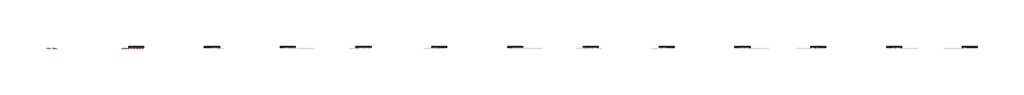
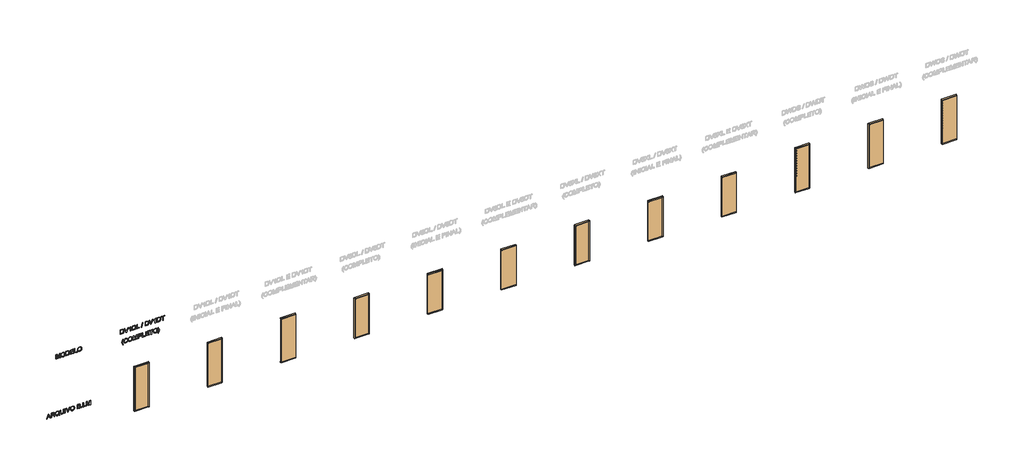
# One storey, part 1 of 7: 12 doors, 3 proxies.
"""IFC4 building model written with IfcOpenShell, lengths in millimetres."""

from ifc_helpers import new_model, si_unit, frame, origin, place, context, project, spatial, polyline, outline, extrude, transform, mapped, element, save
from components import door_b99cb2b5, door_d8bc91a7, door_c7f4f2b3, door_c625b460, door_7680dacf, door_03dbf4ee, dv8dl_8mm_8mm_laminado_d276babe, dv8dl_8mm_8mm_laminado_b832ceb3, dv8dl_8mm_8mm_laminado_8a779c50, dv8xl_8mm_10mm_laminado_efa7bd3a, dv8xl_8mm_10mm_laminado_96504748, dv8xl_8mm_10mm_laminado_3fc03e85

model = new_model("IFC4")

# Units and contexts
model_context = context("Model", 3, world=origin())
ifc_project = project(units=[si_unit("LENGTHUNIT", "METRE", prefix="MILLI")], contexts=[model_context])

# Site, building, storey
site = spatial("IfcSite", under=ifc_project)
building = spatial("IfcBuilding", under=site)
storey = spatial("IfcBuildingStorey", under=building, Name="02 - Marelli - Planta Baixa - Painel Duplo", Elevation=-12000.0)

# Proxies
placement = place(None, origin())
element("IfcBuildingElementProxy", 1, Name="300mm Arial", ObjectType="300mm Arial", at=placement, inside=storey, context=model_context, shape_type="SweptSolid", body=[
    extrude(outline(polyline([(-10400.0, -7636.3146377), (-10400.0, -7596.5098058), (-10305.8222092, -7562.076051), (-10305.8222092, -7437.9526659), (-10400.0, -7403.4453347), (-10400.0, -7363.6405028), (-10098.6310696, -7483.9379153), (-10098.6310696, -7516.0172252), (-10400.0, -7636.3146377)]), holes=[polyline([(-10268.1510929, -7548.243688), (-10187.584936, -7518.739552), (-10136.3021859, -7499.9775703), (-10194.0596591, -7478.8611437), (-10268.1510929, -7451.7114525), (-10268.1510929, -7548.243688)])]), frame((0.0, 8778.3159498, 0.0), z_axis=(0.0, 1.0, 0.0), x_axis=(0.0, 0.0, 1.0)), (0.0, 0.0, 1.0), 10.0),
    extrude(outline(polyline([(-10400.0, -7323.3942126), (-10400.0, -7285.7230963), (-10268.1510929, -7285.7230963), (-10268.1510929, -7240.2528817), (-10269.4754681, -7218.4006911), (-10276.649167, -7200.484838), (-10296.183701, -7180.582422), (-10337.5336372, -7152.2555084), (-10400.0, -7113.0392877), (-10400.0, -7069.2613303), (-10318.3301971, -7119.5140108), (-10279.5554348, -7150.0482164), (-10263.4422034, -7171.4589486), (-10253.4542072, -7134.3488523), (-10245.4389783, -7119.9669655), (-10235.4095954, -7108.3671864), (-10210.7982899, -7093.0540983), (-10181.1102129, -7087.9497357), (-10157.2438684, -7091.0307474), (-10135.5296337, -7100.2737825), (-10118.0184507, -7114.6763626), (-10106.7612616, -7133.2360093), (-10100.6636176, -7158.629064), (-10098.6310696, -7193.5318683), (-10098.6310696, -7323.3942126), (-10400.0, -7323.3942126)]), holes=[polyline([(-10230.4799766, -7285.7230963), (-10136.3021859, -7285.7230963), (-10136.3021859, -7191.9131875), (-10139.5579415, -7162.1055488), (-10149.3252085, -7141.5501423), (-10164.1324588, -7129.6031746), (-10182.5081645, -7125.620852), (-10195.8162956, -7127.7085823), (-10208.0759631, -7133.9717732), (-10218.2111121, -7144.254075), (-10225.1456877, -7158.3991377), (-10229.1464044, -7177.1887106), (-10230.4799766, -7201.404543), (-10230.4799766, -7285.7230963)])]), frame((0.0, 8778.3159498, 0.0), z_axis=(0.0, 1.0, 0.0), x_axis=(0.0, 0.0, 1.0)), (0.0, 0.0, 1.0), 10.0),
    extrude(outline(polyline([(-10363.8739881, -6795.6307023), (-10340.3479345, -6777.1814202), (-10313.0326963, -6764.0664271), (-10281.9650618, -6756.2305406), (-10247.1818192, -6753.6185784), (-10205.3536364, -6757.9227978), (-10168.0136138, -6770.8354558), (-10136.8172207, -6791.9610794), (-10113.4199258, -6820.9041954), (-10098.7966164, -6855.7702114), (-10093.92218, -6894.6645354), (-10098.6862519, -6933.2553567), (-10112.9784674, -6967.9466288), (-10136.3849593, -6996.93573), (-10168.4918604, -7018.4200386), (-10206.944726, -7031.7189727), (-10249.3891112, -7036.1519507), (-10291.7967082, -7031.7097756), (-10329.6977507, -7018.3832504), (-10361.3539964, -6996.8161684), (-10385.0272028, -6967.6523232), (-10399.7884679, -6932.8322924), (-10404.7088895, -6894.2966534), (-10400.4414584, -6855.9449554), (-10387.639165, -6821.0881364), (-10408.47968, -6790.1308665), (-10422.8822601, -6759.063232), (-10395.2911105, -6748.9096889), (-10382.4704229, -6771.2953083), (-10363.8739881, -6795.6307023)]), holes=[polyline([(-10313.7684603, -6883.9223811), (-10342.6104088, -6893.6344658), (-10349.287467, -6873.2721974), (-10359.3122513, -6853.9767867), (-10365.1063928, -6873.6032912), (-10367.0377732, -6894.5173826), (-10365.1362832, -6916.2385151), (-10359.431813, -6935.9316982), (-10349.9243627, -6953.5969318), (-10336.6139322, -6969.2342158), (-10319.748842, -6982.0296115), (-10299.5774124, -6991.1691798), (-10276.0996433, -6996.6529208), (-10249.3155348, -6998.4808344), (-10221.8140564, -6996.6322274), (-10197.9500112, -6991.0864063), (-10177.7233993, -6981.8433712), (-10161.1342205, -6968.903122), (-10148.2100662, -6953.1577726), (-10138.9785274, -6935.4994369), (-10133.4396041, -6915.9281147), (-10131.5932963, -6894.4438062), (-10135.2445251, -6865.9605427), (-10146.1982115, -6840.4019411), (-10163.7645768, -6819.2027411), (-10187.2538422, -6803.7976826), (-10215.9394408, -6794.4166917), (-10249.0948056, -6791.2896947), (-10278.2678478, -6793.5015852), (-10303.5413409, -6800.1372567), (-10324.9152848, -6811.1967092), (-10342.3896796, -6826.6799427), (-10325.7430193, -6852.2477413), (-10313.7684603, -6883.9223811)])]), frame((0.0, 8778.3159498, 0.0), z_axis=(0.0, 1.0, 0.0), x_axis=(0.0, 0.0, 1.0)), (0.0, 0.0, 1.0), 10.0),
    extrude(outline(polyline([(-10098.6310696, -6499.3385434), (-10271.1677253, -6499.3385434), (-10318.3301971, -6504.1026152), (-10335.0688279, -6510.057705), (-10347.2457219, -6518.3948307), (-10355.9047444, -6529.5278596), (-10362.0897604, -6543.8706589), (-10367.0377732, -6582.1855687), (-10364.5361757, -6606.3554158), (-10357.031383, -6626.4785609), (-10344.9188683, -6641.9112106), (-10328.5941047, -6652.0095714), (-10305.0220659, -6657.5829836), (-10271.1677253, -6659.4407877), (-10098.6310696, -6659.4407877), (-10098.6310696, -6697.111904), (-10272.4921005, -6697.111904), (-10315.2675795, -6694.2516215), (-10347.9446977, -6685.6707739), (-10372.3076828, -6670.4036711), (-10390.1407625, -6647.4846228), (-10401.0668578, -6616.904432), (-10404.7088895, -6578.6539015), (-10400.5242318, -6539.5480454), (-10387.9702588, -6508.7563224), (-10368.7484245, -6486.2235502), (-10344.5601833, -6471.8945465), (-10313.2074403, -6464.2242069), (-10272.4921005, -6461.6674271), (-10098.6310696, -6461.6674271), (-10098.6310696, -6499.3385434)])), frame((0.0, 8778.3159498, 0.0), z_axis=(0.0, 1.0, 0.0), x_axis=(0.0, 0.0, 1.0)), (0.0, 0.0, 1.0), 10.0),
    extrude(outline(polyline([(-6353.3629677, 8778.3159498), (-6391.034084, 8778.3159498), (-6391.034084, 8788.3159498), (-6353.3629677, 8788.3159498), (-6353.3629677, 8778.3159498)])), frame((0.0, 0.0, -10400.0), z_axis=(0.0, 0.0, 1.0), x_axis=(1.0, 0.0, 0.0)), (0.0, 0.0, 1.0), 301.3689304),
    extrude(outline(polyline([(-10400.0, -6188.9932922), (-10400.0, -6150.0713771), (-10098.6310696, -6035.2186183), (-10098.6310696, -6075.5384849), (-10315.7550231, -6156.0310655), (-10364.6833285, -6172.0707205), (-10315.7550231, -6188.3311046), (-10098.6310696, -6268.602956), (-10098.6310696, -6308.9228227), (-10400.0, -6188.9932922)])), frame((0.0, 8778.3159498, 0.0), z_axis=(0.0, 1.0, 0.0), x_axis=(0.0, 0.0, 1.0)), (0.0, 0.0, 1.0), 10.0),
    extrude(outline(polyline([(-10253.2886603, -6014.3229209), (-10291.8334964, -6010.0187016), (-10328.2997991, -5997.1060436), (-10359.992833, -5975.8424642), (-10384.2178624, -5946.485481), (-10399.5861328, -5910.8377157), (-10404.7088895, -5870.70179), (-10400.0735764, -5832.892718), (-10386.167637, -5797.7507904), (-10363.2485887, -5767.7868019), (-10331.5739489, -5745.5115471), (-10293.1118863, -5731.6883811), (-10249.8305696, -5727.0806591), (-10207.1194699, -5731.4584548), (-10169.1908362, -5744.5918421), (-10137.5713787, -5766.0761506), (-10113.7878078, -5795.5067102), (-10098.8885869, -5830.9521404), (-10093.92218, -5870.4810608), (-10096.5663319, -5900.7715446), (-10104.4987874, -5928.1465636), (-10117.7195466, -5952.6061177), (-10136.2286095, -5974.1502071), (-10159.4097737, -5991.7257694), (-10186.6468369, -6004.2797425), (-10217.9397991, -6011.8121263), (-10253.2886603, -6014.3229209)]), holes=[polyline([(-10253.6565423, -5976.6518046), (-10223.1200375, -5974.6882345), (-10197.2878236, -5968.797524), (-10176.1599008, -5958.9796733), (-10159.736269, -5945.2346822), (-10147.4237184, -5928.7673644), (-10138.6290395, -5910.7825334), (-10133.3522321, -5891.2801891), (-10131.5932963, -5870.2603316), (-10135.2445251, -5841.0964864), (-10146.1982115, -5814.9676677), (-10163.7921679, -5793.3086153), (-10187.3642068, -5777.5540688), (-10216.1877611, -5767.9523488), (-10249.536264, -5764.7517754), (-10276.0743514, -5766.6210758), (-10299.4026684, -5772.228977), (-10319.521215, -5781.5754789), (-10336.4299912, -5794.6605816), (-10349.8208959, -5810.642755), (-10359.3858277, -5828.6804691), (-10365.1247869, -5848.7737238), (-10367.0377732, -5870.9225192), (-10365.143181, -5892.6988341), (-10359.4594041, -5912.557564), (-10349.9864428, -5930.4987091), (-10336.7242968, -5946.5222692), (-10320.1650085, -5959.703941), (-10300.80062, -5969.1194208), (-10278.6311313, -5974.7687087), (-10253.6565423, -5976.6518046)])]), frame((0.0, 8778.3159498, 0.0), z_axis=(0.0, 1.0, 0.0), x_axis=(0.0, 0.0, 1.0)), (0.0, 0.0, 1.0), 10.0),
    extrude(outline(polyline([(-10400.0, -5557.5606357), (-10400.0, -5443.4436408), (-10394.8128639, -5395.1407348), (-10388.3933231, -5377.10532), (-10379.5089729, -5362.3624491), (-10367.2401083, -5350.3235108), (-10350.6670244, -5340.399894), (-10331.1784758, -5333.7504269), (-10310.1632168, -5331.5339379), (-10284.944906, -5334.7804965), (-10263.2950506, -5344.5201723), (-10246.3356906, -5360.2931129), (-10235.1888662, -5381.6394656), (-10223.4442335, -5363.7695977), (-10208.5174215, -5351.0684718), (-10191.456894, -5343.4809057), (-10173.3111146, -5340.951717), (-10153.5926396, -5343.9591523), (-10134.7570815, -5352.9814582), (-10118.7450176, -5367.3104619), (-10107.4970256, -5386.2379906), (-10100.8475586, -5410.9320695), (-10098.6310696, -5442.560724), (-10098.6310696, -5557.5606357), (-10400.0, -5557.5606357)]), holes=[polyline([(-10221.0621975, -5519.8895194), (-10136.3021859, -5519.8895194), (-10136.3021859, -5456.3195106), (-10140.2385232, -5407.9062401), (-10145.8395266, -5395.4166463), (-10154.769862, -5386.2012024), (-10166.2109921, -5380.5174255), (-10179.3443793, -5378.6228333), (-10192.8732397, -5380.6553813), (-10203.8821084, -5386.7530254), (-10212.2422267, -5396.8605832), (-10217.824836, -5410.9228724), (-10221.0621975, -5451.0955863), (-10221.0621975, -5519.8895194)]), polyline([(-10362.3288837, -5519.8895194), (-10258.7333139, -5519.8895194), (-10258.7333139, -5446.3131204), (-10259.9933097, -5419.4853259), (-10263.7732972, -5399.776048), (-10270.6618875, -5385.8609115), (-10281.247692, -5376.4155413), (-10294.7857494, -5371.007676), (-10310.5310988, -5369.2050542), (-10324.0875503, -5370.7409615), (-10335.9149564, -5375.3486835), (-10352.6535872, -5391.0204565), (-10360.8573557, -5414.6752688), (-10362.3288837, -5442.6343004), (-10362.3288837, -5519.8895194)])]), frame((0.0, 8778.3159498, 0.0), z_axis=(0.0, 1.0, 0.0), x_axis=(0.0, 0.0, 1.0)), (0.0, 0.0, 1.0), 10.0),
    extrude(outline(polyline([(-5237.3561471, 8778.3159498), (-5275.0272634, 8778.3159498), (-5275.0272634, 8788.3159498), (-5237.3561471, 8788.3159498), (-5237.3561471, 8778.3159498)])), frame((0.0, 0.0, -10400.0), z_axis=(0.0, 0.0, 1.0), x_axis=(1.0, 0.0, 0.0)), (0.0, 0.0, 1.0), 37.6711163),
    extrude(outline(polyline([(-5119.6339087, 8778.3159498), (-5157.305025, 8778.3159498), (-5157.305025, 8788.3159498), (-5119.6339087, 8788.3159498), (-5119.6339087, 8778.3159498)])), frame((0.0, 0.0, -10400.0), z_axis=(0.0, 0.0, 1.0), x_axis=(1.0, 0.0, 0.0)), (0.0, 0.0, 1.0), 301.3689304),
    extrude(outline(polyline([(-5001.9116702, 8778.3159498), (-5039.5827865, 8778.3159498), (-5039.5827865, 8788.3159498), (-5001.9116702, 8788.3159498), (-5001.9116702, 8778.3159498)])), frame((0.0, 0.0, -10400.0), z_axis=(0.0, 0.0, 1.0), x_axis=(1.0, 0.0, 0.0)), (0.0, 0.0, 1.0), 37.6711163),
    extrude(outline(polyline([(-10400.0, -4926.5694376), (-10400.0, -4888.8983213), (-10136.3021859, -4888.8983213), (-10400.0, -4813.1882067), (-10400.0, -4762.1261857), (-10136.3021859, -4686.4160711), (-10400.0, -4686.4160711), (-10400.0, -4648.7449548), (-10098.6310696, -4648.7449548), (-10098.6310696, -4713.5657624), (-10307.3673136, -4774.1927152), (-10355.4127022, -4787.6571962), (-10311.0461336, -4800.0916076), (-10098.6310696, -4861.74863), (-10098.6310696, -4926.5694376), (-10400.0, -4926.5694376)])), frame((0.0, 8778.3159498, 0.0), z_axis=(0.0, 1.0, 0.0), x_axis=(0.0, 0.0, 1.0)), (0.0, 0.0, 1.0), 10.0),
])
element("IfcBuildingElementProxy", 2, Name="300mm Arial", ObjectType="300mm Arial", at=placement, inside=storey, context=model_context, shape_type="SweptSolid", body=[
    extrude(outline(polyline([(-6300.0, -6993.7719449), (-6300.0, -6956.1008286), (-6036.3021859, -6956.1008286), (-6300.0, -6880.390714), (-6300.0, -6829.328693), (-6036.3021859, -6753.6185784), (-6300.0, -6753.6185784), (-6300.0, -6715.9474621), (-5998.6310696, -6715.9474621), (-5998.6310696, -6780.7682697), (-6207.3673136, -6841.3952225), (-6255.4127022, -6854.8597035), (-6211.0461336, -6867.2941149), (-5998.6310696, -6928.9511373), (-5998.6310696, -6993.7719449), (-6300.0, -6993.7719449)])), frame((0.0, 8778.3159498, 0.0), z_axis=(0.0, 1.0, 0.0), x_axis=(0.0, 0.0, 1.0)), (0.0, 0.0, 1.0), 10.0),
    extrude(outline(polyline([(-6153.2886603, -6664.1496772), (-6191.8334964, -6659.8454579), (-6228.2997991, -6646.9327998), (-6259.992833, -6625.6692205), (-6284.2178624, -6596.3122373), (-6299.5861328, -6560.664472), (-6304.7088895, -6520.5285463), (-6300.0735764, -6482.7194742), (-6286.167637, -6447.5775466), (-6263.2485887, -6417.6135581), (-6231.5739489, -6395.3383033), (-6193.1118863, -6381.5151374), (-6149.8305696, -6376.9074154), (-6107.1194699, -6381.2852111), (-6069.1908362, -6394.4185983), (-6037.5713787, -6415.9029069), (-6013.7878078, -6445.3334665), (-5998.8885869, -6480.7788967), (-5993.92218, -6520.3078171), (-5996.5663319, -6550.5983009), (-6004.4987874, -6577.9733198), (-6017.7195466, -6602.432874), (-6036.2286095, -6623.9769633), (-6059.4097737, -6641.5525257), (-6086.6468369, -6654.1064987), (-6117.9397991, -6661.6388826), (-6153.2886603, -6664.1496772)]), holes=[polyline([(-6153.6565423, -6626.4785609), (-6123.1200375, -6624.5149908), (-6097.2878236, -6618.6242803), (-6076.1599008, -6608.8064296), (-6059.736269, -6595.0614385), (-6047.4237184, -6578.5941207), (-6038.6290395, -6560.6092897), (-6033.3522321, -6541.1069454), (-6031.5932963, -6520.0870879), (-6035.2445251, -6490.9232427), (-6046.1982115, -6464.794424), (-6063.7921679, -6443.1353716), (-6087.3642068, -6427.3808251), (-6116.1877611, -6417.779105), (-6149.536264, -6414.5785317), (-6176.0743514, -6416.4478321), (-6199.4026684, -6422.0557332), (-6219.521215, -6431.4022352), (-6236.4299912, -6444.4873379), (-6249.8208959, -6460.4695113), (-6259.3858277, -6478.5072254), (-6265.1247869, -6498.6004801), (-6267.0377732, -6520.7492755), (-6265.143181, -6542.5255903), (-6259.4594041, -6562.3843203), (-6249.9864428, -6580.3254653), (-6236.7242968, -6596.3490255), (-6220.1650085, -6609.5306972), (-6200.80062, -6618.9461771), (-6178.6311313, -6624.5954649), (-6153.6565423, -6626.4785609)])]), frame((0.0, 8778.3159498, 0.0), z_axis=(0.0, 1.0, 0.0), x_axis=(0.0, 0.0, 1.0)), (0.0, 0.0, 1.0), 10.0),
    extrude(outline(polyline([(-6300.0, -6325.1096305), (-6300.0, -6216.1429835), (-6294.8496521, -6167.6929247), (-6288.4944906, -6148.1491937), (-6279.7297021, -6131.6772774), (-6267.911493, -6117.3298796), (-6252.3960698, -6104.1597042), (-6232.7419742, -6092.7185741), (-6208.5077478, -6083.5583124), (-6180.0428784, -6077.5434418), (-6147.696854, -6075.5384849), (-6109.6210675, -6078.499935), (-6076.0334413, -6087.3842852), (-6047.4857985, -6102.2283237), (-6024.529962, -6123.0688387), (-6011.3413925, -6143.3391366), (-6002.9720771, -6167.3618309), (-5998.6310696, -6221.1461786), (-5998.6310696, -6325.1096305), (-6300.0, -6325.1096305)]), holes=[polyline([(-6262.3288837, -6287.4385141), (-6036.3021859, -6287.4385141), (-6036.3021859, -6221.8083662), (-6037.810502, -6190.06015), (-6042.3354506, -6168.3919005), (-6054.9170148, -6147.10073), (-6075.7391357, -6129.2860444), (-6106.0526121, -6117.228712), (-6147.1082428, -6113.2096012), (-6178.0931038, -6115.2605434), (-6204.0931639, -6121.4133697), (-6225.2003933, -6131.245016), (-6241.5067628, -6144.332418), (-6250.3175366, -6156.5093121), (-6256.8842302, -6172.2914497), (-6260.9677203, -6193.2055411), (-6262.3288837, -6220.7782966), (-6262.3288837, -6287.4385141)])]), frame((0.0, 8778.3159498, 0.0), z_axis=(0.0, 1.0, 0.0), x_axis=(0.0, 0.0, 1.0)), (0.0, 0.0, 1.0), 10.0),
    extrude(outline(polyline([(-6300.0, -6023.7407), (-6300.0, -5802.4228917), (-6262.3288837, -5802.4228917), (-6262.3288837, -5986.0695837), (-6163.4422034, -5986.0695837), (-6163.4422034, -5816.5495603), (-6125.7710871, -5816.5495603), (-6125.7710871, -5986.0695837), (-6036.3021859, -5986.0695837), (-6036.3021859, -5807.1317812), (-5998.6310696, -5807.1317812), (-5998.6310696, -6023.7407), (-6300.0, -6023.7407)])), frame((0.0, 8778.3159498, 0.0), z_axis=(0.0, 1.0, 0.0), x_axis=(0.0, 0.0, 1.0)), (0.0, 0.0, 1.0), 10.0),
    extrude(outline(polyline([(-6300.0, -5745.9162172), (-6300.0, -5557.5606357), (-6262.3288837, -5557.5606357), (-6262.3288837, -5708.2451009), (-5998.6310696, -5708.2451009), (-5998.6310696, -5745.9162172), (-6300.0, -5745.9162172)])), frame((0.0, 8778.3159498, 0.0), z_axis=(0.0, 1.0, 0.0), x_axis=(0.0, 0.0, 1.0)), (0.0, 0.0, 1.0), 10.0),
    extrude(outline(polyline([(-6153.2886603, -5529.3072985), (-6191.8334964, -5525.0030791), (-6228.2997991, -5512.0904211), (-6259.992833, -5490.8268418), (-6284.2178624, -5461.4698586), (-6299.5861328, -5425.8220932), (-6304.7088895, -5385.6861676), (-6300.0735764, -5347.8770955), (-6286.167637, -5312.7351679), (-6263.2485887, -5282.7711794), (-6231.5739489, -5260.4959246), (-6193.1118863, -5246.6727586), (-6149.8305696, -5242.0650367), (-6107.1194699, -5246.4428324), (-6069.1908362, -5259.5762196), (-6037.5713787, -5281.0605281), (-6013.7878078, -5310.4910878), (-5998.8885869, -5345.936518), (-5993.92218, -5385.4654384), (-5996.5663319, -5415.7559222), (-6004.4987874, -5443.1309411), (-6017.7195466, -5467.5904953), (-6036.2286095, -5489.1345846), (-6059.4097737, -5506.7101469), (-6086.6468369, -5519.26412), (-6117.9397991, -5526.7965039), (-6153.2886603, -5529.3072985)]), holes=[polyline([(-6153.6565423, -5491.6361822), (-6123.1200375, -5489.672612), (-6097.2878236, -5483.7819016), (-6076.1599008, -5473.9640508), (-6059.736269, -5460.2190598), (-6047.4237184, -5443.751742), (-6038.6290395, -5425.7669109), (-6033.3522321, -5406.2645667), (-6031.5932963, -5385.2447092), (-6035.2445251, -5356.080864), (-6046.1982115, -5329.9520453), (-6063.7921679, -5308.2929928), (-6087.3642068, -5292.5384464), (-6116.1877611, -5282.9367263), (-6149.536264, -5279.736153), (-6176.0743514, -5281.6054533), (-6199.4026684, -5287.2133545), (-6219.521215, -5296.5598565), (-6236.4299912, -5309.6449592), (-6249.8208959, -5325.6271326), (-6259.3858277, -5343.6648467), (-6265.1247869, -5363.7581014), (-6267.0377732, -5385.9068968), (-6265.143181, -5407.6832116), (-6259.4594041, -5427.5419416), (-6249.9864428, -5445.4830866), (-6236.7242968, -5461.5066468), (-6220.1650085, -5474.6883185), (-6200.80062, -5484.1037983), (-6178.6311313, -5489.7530862), (-6153.6565423, -5491.6361822)])]), frame((0.0, 8778.3159498, 0.0), z_axis=(0.0, 1.0, 0.0), x_axis=(0.0, 0.0, 1.0)), (0.0, 0.0, 1.0), 10.0),
])
element("IfcBuildingElementProxy", 3, Name="300mm Arial", ObjectType="300mm Arial", at=placement, inside=storey, context=model_context, shape_type="SweptSolid", body=[
    extrude(outline(polyline([(-6049.0625952, -2622.4086982), (-6049.0625952, -2513.4420513), (-6043.9122473, -2464.9919925), (-6037.5570858, -2445.4482615), (-6028.7922972, -2428.9763452), (-6016.9740882, -2414.6289474), (-6001.458665, -2401.4587719), (-5981.8045694, -2390.0176419), (-5957.570343, -2380.8573802), (-5929.1054736, -2374.8425096), (-5896.7594492, -2372.8375527), (-5858.6836627, -2375.7990028), (-5825.0960365, -2384.683353), (-5796.5483937, -2399.5273915), (-5773.5925572, -2420.3679065), (-5760.4039877, -2440.6382044), (-5752.0346723, -2464.6608987), (-5747.6936647, -2518.4452464), (-5747.6936647, -2622.4086982), (-6049.0625952, -2622.4086982)]), holes=[polyline([(-6011.3914789, -2584.7375819), (-5785.364781, -2584.7375819), (-5785.364781, -2519.107434), (-5786.8730972, -2487.3592178), (-5791.3980458, -2465.6909683), (-5803.97961, -2444.3997978), (-5824.8017309, -2426.5851122), (-5855.1152073, -2414.5277798), (-5896.170838, -2410.508669), (-5927.155699, -2412.5596111), (-5953.155759, -2418.7124375), (-5974.2629885, -2428.5440838), (-5990.5693579, -2441.6314858), (-5999.3801317, -2453.8083799), (-6005.9468253, -2469.5905174), (-6010.0303155, -2490.5046089), (-6011.3914789, -2518.0773644), (-6011.3914789, -2584.7375819)])]), frame((0.0, 8778.3159498, 0.0), z_axis=(0.0, 1.0, 0.0), x_axis=(0.0, 0.0, 1.0)), (0.0, 0.0, 1.0), 10.0),
    extrude(outline(polyline([(-6049.0625952, -2232.012325), (-6049.0625952, -2193.0904099), (-5747.6936647, -2078.237651), (-5747.6936647, -2118.5575177), (-5964.8176183, -2199.0500982), (-6013.7459236, -2215.0897532), (-5964.8176183, -2231.3501374), (-5747.6936647, -2311.6219887), (-5747.6936647, -2351.9418554), (-6049.0625952, -2232.012325)])), frame((0.0, 8778.3159498, 0.0), z_axis=(0.0, 1.0, 0.0), x_axis=(0.0, 0.0, 1.0)), (0.0, 0.0, 1.0), 10.0),
    extrude(outline(polyline([(-6049.0625952, -1916.0752675), (-5747.6936647, -1916.0752675), (-5747.6936647, -1940.3554792), (-5767.4305338, -1953.6636104), (-5787.7928022, -1973.8695289), (-5806.9410601, -1999.501707), (-5823.0358973, -2029.0886164), (-5858.6468745, -2029.0886164), (-5839.6273753, -1989.4309373), (-5814.2067295, -1953.7463838), (-6049.0625952, -1953.7463838), (-6049.0625952, -1916.0752675)])), frame((0.0, 8778.3159498, 0.0), z_axis=(0.0, 1.0, 0.0), x_axis=(0.0, 0.0, 1.0)), (0.0, 0.0, 1.0), 10.0),
    extrude(outline(polyline([(-6049.0625952, -1812.4796977), (-6049.0625952, -1703.5130507), (-6043.9122473, -1655.0629919), (-6037.5570858, -1635.5192609), (-6028.7922972, -1619.0473446), (-6016.9740882, -1604.6999468), (-6001.458665, -1591.5297714), (-5981.8045694, -1580.0886413), (-5957.570343, -1570.9283796), (-5929.1054736, -1564.913509), (-5896.7594492, -1562.9085521), (-5858.6836627, -1565.8700022), (-5825.0960365, -1574.7543524), (-5796.5483937, -1589.5983909), (-5773.5925572, -1610.4389059), (-5760.4039877, -1630.7092038), (-5752.0346723, -1654.7318981), (-5747.6936647, -1708.5162458), (-5747.6936647, -1812.4796977), (-6049.0625952, -1812.4796977)]), holes=[polyline([(-6011.3914789, -1774.8085814), (-5785.364781, -1774.8085814), (-5785.364781, -1709.1784334), (-5786.8730972, -1677.4302172), (-5791.3980458, -1655.7619677), (-5803.97961, -1634.4707972), (-5824.8017309, -1616.6561116), (-5855.1152073, -1604.5987792), (-5896.170838, -1600.5796684), (-5927.155699, -1602.6306106), (-5953.155759, -1608.7834369), (-5974.2629885, -1618.6150833), (-5990.5693579, -1631.7024852), (-5999.3801317, -1643.8793793), (-6005.9468253, -1659.6615169), (-6010.0303155, -1680.5756083), (-6011.3914789, -1708.1483638), (-6011.3914789, -1774.8085814)])]), frame((0.0, 8778.3159498, 0.0), z_axis=(0.0, 1.0, 0.0), x_axis=(0.0, 0.0, 1.0)), (0.0, 0.0, 1.0), 10.0),
    extrude(outline(polyline([(-6049.0625952, -1511.1107672), (-6049.0625952, -1322.7551857), (-6011.3914789, -1322.7551857), (-6011.3914789, -1473.4396509), (-5747.6936647, -1473.4396509), (-5747.6936647, -1511.1107672), (-6049.0625952, -1511.1107672)])), frame((0.0, 8778.3159498, 0.0), z_axis=(0.0, 1.0, 0.0), x_axis=(0.0, 0.0, 1.0)), (0.0, 0.0, 1.0), 10.0),
    extrude(outline(polyline([(-6049.0625952, -1195.6151682), (-6049.0625952, -1161.6228718), (-5747.6936647, -1076.8628601), (-5747.6936647, -1110.8551565), (-6049.0625952, -1195.6151682)])), frame((0.0, 8778.3159498, 0.0), z_axis=(0.0, 1.0, 0.0), x_axis=(0.0, 0.0, 1.0)), (0.0, 0.0, 1.0), 10.0),
    extrude(outline(polyline([(-6049.0625952, -927.2084645), (-6049.0625952, -818.2418175), (-6043.9122473, -769.7917587), (-6037.5570858, -750.2480277), (-6028.7922972, -733.7761114), (-6016.9740882, -719.4287136), (-6001.458665, -706.2585382), (-5981.8045694, -694.8174081), (-5957.570343, -685.6571464), (-5929.1054736, -679.6422758), (-5896.7594492, -677.6373189), (-5858.6836627, -680.598769), (-5825.0960365, -689.4831192), (-5796.5483937, -704.3271577), (-5773.5925572, -725.1676727), (-5760.4039877, -745.4379707), (-5752.0346723, -769.4606649), (-5747.6936647, -823.2450126), (-5747.6936647, -927.2084645), (-6049.0625952, -927.2084645)]), holes=[polyline([(-6011.3914789, -889.5373482), (-5785.364781, -889.5373482), (-5785.364781, -823.9072002), (-5786.8730972, -792.158984), (-5791.3980458, -770.4907345), (-5803.97961, -749.1995641), (-5824.8017309, -731.3848784), (-5855.1152073, -719.327546), (-5896.170838, -715.3084352), (-5927.155699, -717.3593774), (-5953.155759, -723.5122037), (-5974.2629885, -733.3438501), (-5990.5693579, -746.431252), (-5999.3801317, -758.6081461), (-6005.9468253, -774.3902837), (-6010.0303155, -795.3043751), (-6011.3914789, -822.8771306), (-6011.3914789, -889.5373482)])]), frame((0.0, 8778.3159498, 0.0), z_axis=(0.0, 1.0, 0.0), x_axis=(0.0, 0.0, 1.0)), (0.0, 0.0, 1.0), 10.0),
    extrude(outline(polyline([(-6049.0625952, -536.8120912), (-6049.0625952, -497.8901761), (-5747.6936647, -383.0374172), (-5747.6936647, -423.3572839), (-5964.8176183, -503.8498644), (-6013.7459236, -519.8895194), (-5964.8176183, -536.1499036), (-5747.6936647, -616.4217549), (-5747.6936647, -656.7416216), (-6049.0625952, -536.8120912)])), frame((0.0, 8778.3159498, 0.0), z_axis=(0.0, 1.0, 0.0), x_axis=(0.0, 0.0, 1.0)), (0.0, 0.0, 1.0), 10.0),
    extrude(outline(polyline([(-6049.0625952, -220.8750337), (-5747.6936647, -220.8750337), (-5747.6936647, -245.1552454), (-5767.4305338, -258.4633766), (-5787.7928022, -278.6692952), (-5806.9410601, -304.3014732), (-5823.0358973, -333.8883826), (-5858.6468745, -333.8883826), (-5839.6273753, -294.2307036), (-5814.2067295, -258.54615), (-6049.0625952, -258.54615), (-6049.0625952, -220.8750337)])), frame((0.0, 8778.3159498, 0.0), z_axis=(0.0, 1.0, 0.0), x_axis=(0.0, 0.0, 1.0)), (0.0, 0.0, 1.0), 10.0),
    extrude(outline(polyline([(-6049.0625952, -117.2794639), (-6049.0625952, -8.3128169), (-6043.9122473, 40.1372418), (-6037.5570858, 59.6809728), (-6028.7922972, 76.1528892), (-6016.9740882, 90.500287), (-6001.458665, 103.6704624), (-5981.8045694, 115.1115925), (-5957.570343, 124.2718541), (-5929.1054736, 130.2867248), (-5896.7594492, 132.2916816), (-5858.6836627, 129.3302316), (-5825.0960365, 120.4458814), (-5796.5483937, 105.6018429), (-5773.5925572, 84.7613279), (-5760.4039877, 64.4910299), (-5752.0346723, 40.4683356), (-5747.6936647, -13.3160121), (-5747.6936647, -117.2794639), (-6049.0625952, -117.2794639)]), holes=[polyline([(-6011.3914789, -79.6083476), (-5785.364781, -79.6083476), (-5785.364781, -13.9781996), (-5786.8730972, 17.7700165), (-5791.3980458, 39.4382661), (-5803.97961, 60.7294365), (-5824.8017309, 78.5441221), (-5855.1152073, 90.6014545), (-5896.170838, 94.6205653), (-5927.155699, 92.5696232), (-5953.155759, 86.4167968), (-5974.2629885, 76.5851505), (-5990.5693579, 63.4977485), (-5999.3801317, 51.3208545), (-6005.9468253, 35.5387169), (-6010.0303155, 14.6246255), (-6011.3914789, -12.9481301), (-6011.3914789, -79.6083476)])]), frame((0.0, 8778.3159498, 0.0), z_axis=(0.0, 1.0, 0.0), x_axis=(0.0, 0.0, 1.0)), (0.0, 0.0, 1.0), 10.0),
    extrude(outline(polyline([(-6049.0625952, 259.4316992), (-6049.0625952, 297.1028155), (-5785.364781, 297.1028155), (-5785.364781, 395.9894958), (-5747.6936647, 395.9894958), (-5747.6936647, 160.5450189), (-5785.364781, 160.5450189), (-5785.364781, 259.4316992), (-6049.0625952, 259.4316992)])), frame((0.0, 8778.3159498, 0.0), z_axis=(0.0, 1.0, 0.0), x_axis=(0.0, 0.0, 1.0)), (0.0, 0.0, 1.0), 10.0),
    extrude(outline(polyline([(-6865.6715139, -2434.0531167), (-6865.6715139, -2405.7997795), (-6817.4329873, -2434.6417279), (-6769.1760666, -2455.2431196), (-6720.9007518, -2467.6039547), (-6672.6070429, -2471.724233), (-6634.7335915, -2469.3513942), (-6597.0440811, -2462.2328775), (-6539.2130314, -2441.0428746), (-6479.5425718, -2405.7997795), (-6479.5425718, -2434.0531167), (-6530.0527697, -2468.7443889), (-6580.7836969, -2493.0613887), (-6625.5733298, -2505.3118592), (-6672.3863137, -2509.3953493), (-6725.7659912, -2503.9323017), (-6777.3062587, -2487.5431588), (-6824.7078538, -2463.244553), (-6865.6715139, -2434.0531167)])), frame((0.0, 8778.3159498, 0.0), z_axis=(0.0, 1.0, 0.0), x_axis=(0.0, 0.0, 1.0)), (0.0, 0.0, 1.0), 10.0),
    extrude(outline(polyline([(-6673.7842653, -2151.5197444), (-6706.0475162, -2163.7058355), (-6729.2608701, -2183.4886898), (-6743.2771741, -2209.6910849), (-6747.9492755, -2241.1357984), (-6744.5187759, -2268.1107457), (-6734.2272771, -2293.1175244), (-6717.0012026, -2313.9764335), (-6692.7669762, -2328.5077723), (-6662.674229, -2337.0334375), (-6627.8725923, -2339.8753259), (-6599.4537081, -2337.4748959), (-6571.8809526, -2330.2736059), (-6547.4903763, -2317.1494157), (-6528.61803, -2296.9802853), (-6516.5331064, -2270.4008112), (-6512.5047986, -2238.0455897), (-6516.1376333, -2209.9761935), (-6527.0361374, -2187.1307216), (-6545.8808926, -2169.2884448), (-6573.3524806, -2156.228634), (-6564.3761599, -2118.5575177), (-6526.5578908, -2135.1949809), (-6511.2356057, -2146.9970951), (-6498.3045536, -2161.1214645), (-6488.0360474, -2177.3013745), (-6480.7014001, -2195.2701107), (-6474.8336823, -2236.5740617), (-6479.3678279, -2274.429119), (-6492.9702646, -2308.9732384), (-6515.3098988, -2338.1002953), (-6546.0556365, -2359.7041655), (-6584.0026643, -2373.0858731), (-6627.9461687, -2377.5464423), (-6669.6088046, -2373.6009079), (-6708.5123256, -2361.7643047), (-6741.6033111, -2342.3769235), (-6765.8283405, -2315.7790553), (-6780.672379, -2281.0785861), (-6785.6203918, -2237.3834021), (-6783.9856162, -2214.9609945), (-6779.0812893, -2194.3412087), (-6770.9074112, -2175.5240446), (-6759.4639819, -2158.5095023), (-6744.9073512, -2143.6332741), (-6727.393869, -2131.2310524), (-6706.9235352, -2121.302837), (-6683.4963499, -2113.8486281), (-6673.7842653, -2151.5197444)])), frame((0.0, 8778.3159498, 0.0), z_axis=(0.0, 1.0, 0.0), x_axis=(0.0, 0.0, 1.0)), (0.0, 0.0, 1.0), 10.0),
    extrude(outline(polyline([(-6634.2001626, -2076.1775118), (-6672.7449986, -2071.8732925), (-6709.2113014, -2058.9606344), (-6740.9043353, -2037.6970551), (-6765.1293647, -2008.3400719), (-6780.497635, -1972.6923066), (-6785.6203918, -1932.5563809), (-6780.9850787, -1894.7473088), (-6767.0791392, -1859.6053812), (-6744.1600909, -1829.6413927), (-6712.4854512, -1807.3661379), (-6674.0233886, -1793.542972), (-6630.7420718, -1788.93525), (-6588.0309722, -1793.3130457), (-6550.1023385, -1806.4464329), (-6518.482881, -1827.9307415), (-6494.69931, -1857.3613011), (-6479.8000892, -1892.8067313), (-6474.8336823, -1932.3356517), (-6477.4778341, -1962.6261355), (-6485.4102896, -1990.0011544), (-6498.6310488, -2014.4607086), (-6517.1401117, -2036.0047979), (-6540.3212759, -2053.5803603), (-6567.5583392, -2066.1343333), (-6598.8513014, -2073.6667172), (-6634.2001626, -2076.1775118)]), holes=[polyline([(-6634.5680446, -2038.5063955), (-6604.0315397, -2036.5428254), (-6578.1993259, -2030.6521149), (-6557.071403, -2020.8342642), (-6540.6477712, -2007.0892731), (-6528.3352207, -1990.6219553), (-6519.5405417, -1972.6371243), (-6514.2637344, -1953.13478), (-6512.5047986, -1932.1149225), (-6516.1560274, -1902.9510773), (-6527.1097138, -1876.8222586), (-6544.7036702, -1855.1632062), (-6568.275709, -1839.4086597), (-6597.0992634, -1829.8069396), (-6630.4477662, -1826.6063663), (-6656.9858537, -1828.4756667), (-6680.3141707, -1834.0835678), (-6700.4327173, -1843.4300698), (-6717.3414935, -1856.5151725), (-6730.7323981, -1872.4973459), (-6740.29733, -1890.53506), (-6746.0362891, -1910.6283147), (-6747.9492755, -1932.7771101), (-6746.0546832, -1954.5534249), (-6740.3709064, -1974.4121549), (-6730.897945, -1992.3532999), (-6717.6357991, -2008.3768601), (-6701.0765108, -2021.5585318), (-6681.7121223, -2030.9740116), (-6659.5426335, -2036.6232995), (-6634.5680446, -2038.5063955)])]), frame((0.0, 8778.3159498, 0.0), z_axis=(0.0, 1.0, 0.0), x_axis=(0.0, 0.0, 1.0)), (0.0, 0.0, 1.0), 10.0),
    extrude(outline(polyline([(-6780.9115023, -1737.1374651), (-6780.9115023, -1699.4663487), (-6517.2136881, -1699.4663487), (-6780.9115023, -1623.7562341), (-6780.9115023, -1572.6942132), (-6517.2136881, -1496.9840986), (-6780.9115023, -1496.9840986), (-6780.9115023, -1459.3129823), (-6479.5425718, -1459.3129823), (-6479.5425718, -1524.1337898), (-6688.2788159, -1584.7607426), (-6736.3242044, -1598.2252237), (-6691.9576358, -1610.6596351), (-6479.5425718, -1672.3166575), (-6479.5425718, -1737.1374651), (-6780.9115023, -1737.1374651)])), frame((0.0, 8778.3159498, 0.0), z_axis=(0.0, 1.0, 0.0), x_axis=(0.0, 0.0, 1.0)), (0.0, 0.0, 1.0), 10.0),
    extrude(outline(polyline([(-6780.9115023, -1393.3885288), (-6780.9115023, -1355.7174125), (-6658.4803743, -1355.7174125), (-6658.4803743, -1279.1243811), (-6656.8157082, -1249.926047), (-6651.8217101, -1225.6067478), (-6643.49838, -1206.1664836), (-6631.8457178, -1191.6052544), (-6617.7880271, -1180.9987566), (-6602.2496113, -1173.4226868), (-6585.2304705, -1168.8770449), (-6566.7306047, -1167.3618309), (-6545.2738873, -1169.6059111), (-6525.6381858, -1176.3381516), (-6508.9915255, -1186.7584091), (-6496.5019318, -1200.0665403), (-6487.7739314, -1216.5936389), (-6482.4120514, -1236.6707988), (-6479.5425718, -1281.699555), (-6479.5425718, -1393.3885288), (-6780.9115023, -1393.3885288)]), holes=[polyline([(-6620.809258, -1355.7174125), (-6517.2136881, -1355.7174125), (-6517.2136881, -1277.8000059), (-6519.7888621, -1240.1288896), (-6526.1164324, -1225.9010534), (-6536.8585867, -1214.7082437), (-6551.1324081, -1207.4517713), (-6568.0549798, -1205.0329472), (-6590.3302347, -1209.1348315), (-6606.9768949, -1221.4404842), (-6617.3511672, -1243.5134039), (-6620.809258, -1276.9170891), (-6620.809258, -1355.7174125)])]), frame((0.0, 8778.3159498, 0.0), z_axis=(0.0, 1.0, 0.0), x_axis=(0.0, 0.0, 1.0)), (0.0, 0.0, 1.0), 10.0),
    extrude(outline(polyline([(-6780.9115023, -1115.564046), (-6780.9115023, -927.2084645), (-6743.2403859, -927.2084645), (-6743.2403859, -1077.8929297), (-6479.5425718, -1077.8929297), (-6479.5425718, -1115.564046), (-6780.9115023, -1115.564046)])), frame((0.0, 8778.3159498, 0.0), z_axis=(0.0, 1.0, 0.0), x_axis=(0.0, 0.0, 1.0)), (0.0, 0.0, 1.0), 10.0),
    extrude(outline(polyline([(-6780.9115023, -884.8284586), (-6780.9115023, -663.5106503), (-6743.2403859, -663.5106503), (-6743.2403859, -847.1573423), (-6644.3537056, -847.1573423), (-6644.3537056, -677.6373189), (-6606.6825893, -677.6373189), (-6606.6825893, -847.1573423), (-6517.2136881, -847.1573423), (-6517.2136881, -668.2195399), (-6479.5425718, -668.2195399), (-6479.5425718, -884.8284586), (-6780.9115023, -884.8284586)])), frame((0.0, 8778.3159498, 0.0), z_axis=(0.0, 1.0, 0.0), x_axis=(0.0, 0.0, 1.0)), (0.0, 0.0, 1.0), 10.0),
    extrude(outline(polyline([(-6780.9115023, -531.6617433), (-6780.9115023, -493.990627), (-6517.2136881, -493.990627), (-6517.2136881, -395.1039466), (-6479.5425718, -395.1039466), (-6479.5425718, -630.5484236), (-6517.2136881, -630.5484236), (-6517.2136881, -531.6617433), (-6780.9115023, -531.6617433)])), frame((0.0, 8778.3159498, 0.0), z_axis=(0.0, 1.0, 0.0), x_axis=(0.0, 0.0, 1.0)), (0.0, 0.0, 1.0), 10.0),
    extrude(outline(polyline([(-6634.2001626, -366.8506094), (-6672.7449986, -362.5463901), (-6709.2113014, -349.633732), (-6740.9043353, -328.3701527), (-6765.1293647, -299.0131695), (-6780.497635, -263.3654042), (-6785.6203918, -223.2294785), (-6780.9850787, -185.4204064), (-6767.0791392, -150.2784789), (-6744.1600909, -120.3144903), (-6712.4854512, -98.0392355), (-6674.0233886, -84.2160696), (-6630.7420718, -79.6083476), (-6588.0309722, -83.9861433), (-6550.1023385, -97.1195306), (-6518.482881, -118.6038391), (-6494.69931, -148.0343987), (-6479.8000892, -183.4798289), (-6474.8336823, -223.0087493), (-6477.4778341, -253.2992331), (-6485.4102896, -280.674252), (-6498.6310488, -305.1338062), (-6517.1401117, -326.6778955), (-6540.3212759, -344.2534579), (-6567.5583392, -356.8074309), (-6598.8513014, -364.3398148), (-6634.2001626, -366.8506094)]), holes=[polyline([(-6634.5680446, -329.1794931), (-6604.0315397, -327.215923), (-6578.1993259, -321.3252125), (-6557.071403, -311.5073618), (-6540.6477712, -297.7623707), (-6528.3352207, -281.2950529), (-6519.5405417, -263.3102219), (-6514.2637344, -243.8078776), (-6512.5047986, -222.7880201), (-6516.1560274, -193.6241749), (-6527.1097138, -167.4953562), (-6544.7036702, -145.8363038), (-6568.275709, -130.0817573), (-6597.0992634, -120.4800372), (-6630.4477662, -117.2794639), (-6656.9858537, -119.1487643), (-6680.3141707, -124.7566654), (-6700.4327173, -134.1031674), (-6717.3414935, -147.1882701), (-6730.7323981, -163.1704435), (-6740.29733, -181.2081576), (-6746.0362891, -201.3014123), (-6747.9492755, -223.4502077), (-6746.0546832, -245.2265225), (-6740.3709064, -265.0852525), (-6730.897945, -283.0263976), (-6717.6357991, -299.0499577), (-6701.0765108, -312.2316294), (-6681.7121223, -321.6471093), (-6659.5426335, -327.2963971), (-6634.5680446, -329.1794931)])]), frame((0.0, 8778.3159498, 0.0), z_axis=(0.0, 1.0, 0.0), x_axis=(0.0, 0.0, 1.0)), (0.0, 0.0, 1.0), 10.0),
    extrude(outline(polyline([(-6865.6715139, -23.1016731), (-6824.7078538, 5.9518074), (-6777.3062587, 30.2780044), (-6725.7659912, 46.7499207), (-6672.3863137, 52.2405595), (-6625.5733298, 48.1570693), (-6580.7836969, 35.9065989), (-6530.0527697, 11.589599), (-6479.5425718, -23.1016731), (-6479.5425718, -51.3550104), (-6539.8016426, -15.891186), (-6568.1469503, -3.9166271), (-6597.7062687, 5.0780877), (-6635.009503, 12.1966043), (-6672.6070429, 14.5694432), (-6720.9007518, 10.4491648), (-6769.1760666, -1.9116702), (-6817.4329873, -22.5130619), (-6865.6715139, -51.3550104), (-6865.6715139, -23.1016731)])), frame((0.0, 8778.3159498, 0.0), z_axis=(0.0, 1.0, 0.0), x_axis=(0.0, 0.0, 1.0)), (0.0, 0.0, 1.0), 10.0),
])

# Doors
door_shape = door_b99cb2b5(model_context)
element("IfcDoor", 4, ObjectType="Mobiliário_Mobiliário de Escritório_Painel Vidro Duplo - DVDT, DVDL e DVXL (Completo)_Marelli : DV1DT - 10mm + 10mm - Temperado", at=placement, inside=storey, context=model_context, shape_type="MappedRepresentation", body=[
    mapped(door_shape, transform((-1124.9818251, 8888.3159498, -12000.0), x_axis=(-1.0, 0.0, 0.0), y_axis=(0.0, -1.0, 0.0), z_axis=(0.0, 0.0, 1.0))),
])
door_2_shape = door_d8bc91a7(model_context)
element("IfcDoor", 5, ObjectType="Mobiliário_Mobiliário de Escritório_Painel Vidro Duplo - DVDT, DVDL e DVXL (Inicial e Final)_Marelli : DV1DT - 10mm + 10mm - Temperado", at=placement, inside=storey, context=model_context, shape_type="MappedRepresentation", body=[
    mapped(door_2_shape, transform((3875.0181749, 8888.3159498, -12000.0), x_axis=(-1.0, 0.0, 0.0), y_axis=(0.0, -1.0, 0.0), z_axis=(0.0, 0.0, 1.0))),
])
door_3_shape = door_c7f4f2b3(model_context)
element("IfcDoor", 6, ObjectType="Mobiliário_Mobiliário de Escritório_Painel Vidro Duplo - DVDT, DVDL e DVXL (Complementar)_Marelli : DV1DT - 10mm + 10mm - Temperado", at=placement, inside=storey, context=model_context, shape_type="MappedRepresentation", body=[
    mapped(door_3_shape, transform((8875.0181749, 8888.3159498, -12000.0), x_axis=(-1.0, 0.0, 0.0), y_axis=(0.0, -1.0, 0.0), z_axis=(0.0, 0.0, 1.0))),
])
door_4_shape = door_c625b460(model_context)
element("IfcDoor", 7, ObjectType="Mobiliário_Mobiliário de Escritório_Painel Persiana Junta Seca - DWVS e DWVD (Completo)_Marelli : DWVD", at=placement, inside=storey, context=model_context, shape_type="MappedRepresentation", body=[
    mapped(door_4_shape, transform((43875.0181749, 8888.3159498, -12000.0), x_axis=(1.0, 0.0, 0.0), y_axis=(0.0, 1.0, 0.0), z_axis=(0.0, 0.0, 1.0))),
])
door_5_shape = door_7680dacf(model_context)
element("IfcDoor", 8, ObjectType="Mobiliário_Mobiliário de Escritório_Painel Persiana Junta Seca - DWVS e DWVD (Inicial e Final)_Marelli : DWVD", at=placement, inside=storey, context=model_context, shape_type="MappedRepresentation", body=[
    mapped(door_5_shape, transform((48875.0181749, 8888.3159498, -12000.0), x_axis=(-1.0, 0.0, 0.0), y_axis=(0.0, -1.0, 0.0), z_axis=(0.0, 0.0, 1.0))),
])
door_6_shape = door_03dbf4ee(model_context)
element("IfcDoor", 9, ObjectType="Mobiliário_Mobiliário de Escritório_Painel Persiana Junta Seca - DWVS e DWVD (Complementar)_Marelli : DWVD", at=placement, inside=storey, context=model_context, shape_type="MappedRepresentation", body=[
    mapped(door_6_shape, transform((53875.0181749, 8888.3159498, -12000.0), x_axis=(-1.0, 0.0, 0.0), y_axis=(0.0, -1.0, 0.0), z_axis=(0.0, 0.0, 1.0))),
])
dv8dl_8mm_8mm_laminado_shape = dv8dl_8mm_8mm_laminado_d276babe(model_context)
element("IfcDoor", 10, ObjectType="Mobiliário_Mobiliário de Escritório_Painel Vidro Duplo - DVDT, DVDL e DVXL (Completo)_Marelli : DV8DL - 8mm + 8mm - Laminado", at=placement, inside=storey, context=model_context, shape_type="MappedRepresentation", body=[
    mapped(dv8dl_8mm_8mm_laminado_shape, transform((13875.0181749, 8888.3159498, -12000.0), x_axis=(-1.0, 0.0, 0.0), y_axis=(0.0, -1.0, 0.0), z_axis=(0.0, 0.0, 1.0))),
])
dv8dl_8mm_8mm_laminado_2_shape = dv8dl_8mm_8mm_laminado_b832ceb3(model_context)
element("IfcDoor", 11, ObjectType="Mobiliário_Mobiliário de Escritório_Painel Vidro Duplo - DVDT, DVDL e DVXL (Inicial e Final)_Marelli : DV8DL - 8mm + 8mm - Laminado", at=placement, inside=storey, context=model_context, shape_type="MappedRepresentation", body=[
    mapped(dv8dl_8mm_8mm_laminado_2_shape, transform((18875.0181749, 8888.3159498, -12000.0), x_axis=(-1.0, 0.0, 0.0), y_axis=(0.0, -1.0, 0.0), z_axis=(0.0, 0.0, 1.0))),
])
dv8dl_8mm_8mm_laminado_3_shape = dv8dl_8mm_8mm_laminado_8a779c50(model_context)
element("IfcDoor", 12, ObjectType="Mobiliário_Mobiliário de Escritório_Painel Vidro Duplo - DVDT, DVDL e DVXL (Complementar)_Marelli : DV8DL - 8mm + 8mm - Laminado", at=placement, inside=storey, context=model_context, shape_type="MappedRepresentation", body=[
    mapped(dv8dl_8mm_8mm_laminado_3_shape, transform((23875.0181749, 8888.3159498, -12000.0), x_axis=(-1.0, 0.0, 0.0), y_axis=(0.0, -1.0, 0.0), z_axis=(0.0, 0.0, 1.0))),
])
dv8xl_8mm_10mm_laminado_shape = dv8xl_8mm_10mm_laminado_efa7bd3a(model_context)
element("IfcDoor", 13, ObjectType="Mobiliário_Mobiliário de Escritório_Painel Vidro Duplo - DVDT, DVDL e DVXL (Completo)_Marelli : DV8XL - 8mm + 10mm - Laminado", at=placement, inside=storey, context=model_context, shape_type="MappedRepresentation", body=[
    mapped(dv8xl_8mm_10mm_laminado_shape, transform((28875.0181749, 8888.3159498, -12000.0), x_axis=(-1.0, 0.0, 0.0), y_axis=(0.0, -1.0, 0.0), z_axis=(0.0, 0.0, 1.0))),
])
dv8xl_8mm_10mm_laminado_2_shape = dv8xl_8mm_10mm_laminado_96504748(model_context)
element("IfcDoor", 14, ObjectType="Mobiliário_Mobiliário de Escritório_Painel Vidro Duplo - DVDT, DVDL e DVXL (Inicial e Final)_Marelli : DV8XL - 8mm + 10mm - Laminado", at=placement, inside=storey, context=model_context, shape_type="MappedRepresentation", body=[
    mapped(dv8xl_8mm_10mm_laminado_2_shape, transform((33875.0181749, 8888.3159498, -12000.0), x_axis=(-1.0, 0.0, 0.0), y_axis=(0.0, -1.0, 0.0), z_axis=(0.0, 0.0, 1.0))),
])
dv8xl_8mm_10mm_laminado_3_shape = dv8xl_8mm_10mm_laminado_3fc03e85(model_context)
element("IfcDoor", 15, ObjectType="Mobiliário_Mobiliário de Escritório_Painel Vidro Duplo - DVDT, DVDL e DVXL (Complementar)_Marelli : DV8XL - 8mm + 10mm - Laminado", at=placement, inside=storey, context=model_context, shape_type="MappedRepresentation", body=[
    mapped(dv8xl_8mm_10mm_laminado_3_shape, transform((38875.0181749, 8888.3159498, -12000.0), x_axis=(-1.0, 0.0, 0.0), y_axis=(0.0, -1.0, 0.0), z_axis=(0.0, 0.0, 1.0))),
])

save(model, "model.ifc")
